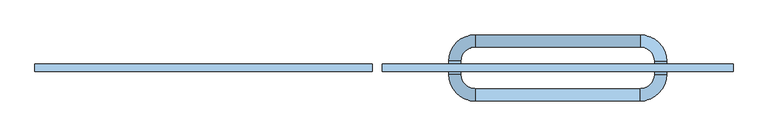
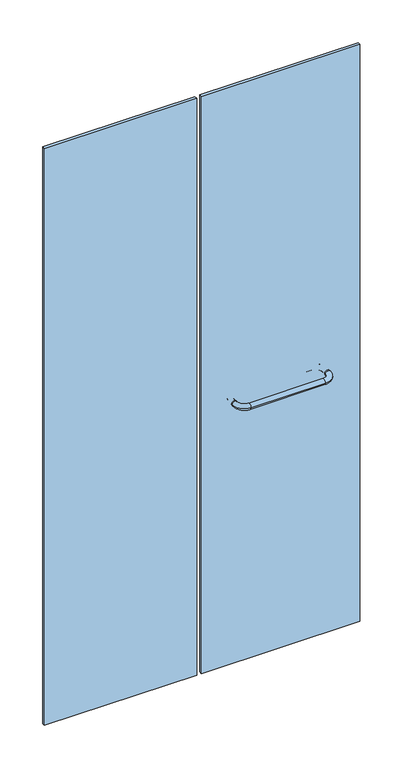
"""IFC4 building model written with IfcOpenShell, lengths in millimetres: window geometry, Baño 1 Puerta lateral - toallero simple : CA07a-cancel baño-1.05."""

from ifc_helpers import new_model, si_unit, point, frame, origin, origin_with_axes, place, context, project, spatial, polyline, circle_curve, ellipse_curve, trimmed, outline, extrude, source, transform, mapped, element, save
from ifc_brep_helpers import cylinder_surface, revolved_surface, advanced_brep


def window_9818a119(model_context):
    return source(origin(), model_context, "Body", "SolidModel", [
        extrude(outline(polyline([(-10.0, 5.5), (510.0, 5.5), (510.0, -5.5), (-10.0, -5.5), (-10.0, 5.5)])), origin_with_axes(), (0.0, 0.0, 1.0), 2000.0),
        extrude(outline(polyline([(-525.0, 5.5), (-25.0, 5.5), (-25.0, -5.5), (-525.0, -5.5), (-525.0, 5.5)])), origin_with_axes(), (0.0, 0.0, 1.0), 2000.0),
        advanced_brep(
        [(88.5, -10.0, 900.0), (106.5, -10.0, 900.0), (127.5, -31.0, 900.0), (127.5, -49.0, 900.0), (88.5, 10.0, 900.0), (106.5, 10.0, 900.0), (127.5, 49.0, 900.0), (127.5, 31.0, 900.0), (372.5, 49.0, 900.0), (372.5, 31.0, 900.0), (411.5, 10.0, 900.0), (393.5, 10.0, 900.0), (411.5, -10.0, 900.0), (393.5, -10.0, 900.0), (372.5, -49.0, 900.0), (372.5, -31.0, 900.0)],
        [
            (0, 1, circle_curve(frame((97.5, -10.0, 900.0), z_axis=(0.0, -1.0, 0.0), x_axis=(1.0, 0.0, 0.0)), 9.0)),
            (1, 2, circle_curve(frame((127.5, -10.0, 900.0), z_axis=(0.0, 0.0, 1.0), x_axis=(0.0, -1.0, 0.0)), 21.0)),
            (2, 3, circle_curve(frame((127.5, -40.0, 900.0), z_axis=(-1.0, 0.0, 0.0), x_axis=(0.0, 1.0, 0.0)), 9.0)),
            (3, 0, circle_curve(frame((127.5, -10.0, 900.0), z_axis=(0.0, 0.0, -1.0), x_axis=(0.0, -1.0, 0.0)), 39.0)),
            (1, 0, circle_curve(frame((97.5, -10.0, 900.0), z_axis=(0.0, -1.0, 0.0), x_axis=(1.0, 0.0, 0.0)), 9.0)),
            (3, 2, circle_curve(frame((127.5, -40.0, 900.0), z_axis=(-1.0, 0.0, 0.0), x_axis=(0.0, 1.0, 0.0)), 9.0)),
            (0, 4),
            (4, 5, circle_curve(frame((97.5, 10.0, 900.0), z_axis=(0.0, -1.0, 0.0), x_axis=(1.0, 0.0, 0.0)), 9.0)),
            (5, 1),
            (5, 4, circle_curve(frame((97.5, 10.0, 900.0), z_axis=(0.0, -1.0, 0.0), x_axis=(1.0, 0.0, 0.0)), 9.0)),
            (6, 7, circle_curve(frame((127.5, 40.0, 900.0), z_axis=(-1.0, 0.0, 0.0), x_axis=(0.0, -1.0, 0.0)), 9.0)),
            (7, 5, circle_curve(frame((127.5, 10.0, 900.0), z_axis=(0.0, 0.0, 1.0), x_axis=(-1.0, 0.0, 0.0)), 21.0)),
            (4, 6, circle_curve(frame((127.5, 10.0, 900.0), z_axis=(0.0, 0.0, -1.0), x_axis=(-1.0, 0.0, 0.0)), 39.0)),
            (7, 6, circle_curve(frame((127.5, 40.0, 900.0), z_axis=(-1.0, 0.0, 0.0), x_axis=(0.0, -1.0, 0.0)), 9.0)),
            (6, 8),
            (8, 9, circle_curve(frame((372.5, 40.0, 900.0), z_axis=(-1.0, 0.0, 0.0), x_axis=(0.0, -1.0, 0.0)), 9.0)),
            (9, 7),
            (9, 8, circle_curve(frame((372.5, 40.0, 900.0), z_axis=(-1.0, 0.0, 0.0), x_axis=(0.0, -1.0, 0.0)), 9.0)),
            (10, 11, circle_curve(frame((402.5, 10.0, 900.0), z_axis=(0.0, 1.0, 0.0), x_axis=(-1.0, 0.0, 0.0)), 9.0)),
            (11, 9, circle_curve(frame((372.5, 10.0, 900.0), z_axis=(0.0, 0.0, 1.0), x_axis=(0.0, 1.0, 0.0)), 21.0)),
            (8, 10, circle_curve(frame((372.5, 10.0, 900.0), z_axis=(0.0, 0.0, -1.0), x_axis=(0.0, 1.0, 0.0)), 39.0)),
            (11, 10, circle_curve(frame((402.5, 10.0, 900.0), z_axis=(0.0, 1.0, 0.0), x_axis=(-1.0, 0.0, 0.0)), 9.0)),
            (10, 12),
            (12, 13, circle_curve(frame((402.5, -10.0, 900.0), z_axis=(0.0, 1.0, 0.0), x_axis=(-1.0, 0.0, 0.0)), 9.0)),
            (13, 11),
            (13, 12, circle_curve(frame((402.5, -10.0, 900.0), z_axis=(0.0, 1.0, 0.0), x_axis=(-1.0, 0.0, 0.0)), 9.0)),
            (14, 15, circle_curve(frame((372.5, -40.0, 900.0), z_axis=(1.0, 0.0, 0.0), x_axis=(0.0, 1.0, 0.0)), 9.0)),
            (15, 13, circle_curve(frame((372.5, -10.0, 900.0), z_axis=(0.0, 0.0, 1.0), x_axis=(1.0, 0.0, 0.0)), 21.0)),
            (12, 14, circle_curve(frame((372.5, -10.0, 900.0), z_axis=(0.0, 0.0, -1.0), x_axis=(1.0, 0.0, 0.0)), 39.0)),
            (15, 14, circle_curve(frame((372.5, -40.0, 900.0), z_axis=(1.0, 0.0, 0.0), x_axis=(0.0, 1.0, 0.0)), 9.0)),
            (14, 3),
            (2, 15),
        ],
        [
            revolved_surface(trimmed(ellipse_curve(frame((127.5, -40.0, 900.0), z_axis=(-1.0, 0.0, 0.0), x_axis=(0.0, 1.0, 0.0)), 9.0, 9.0), [point((127.5, -31.0, 900.0))], [point((127.5, -49.0, 900.0))], True, "CARTESIAN"), (127.5, -10.0, 0.0), (0.0, 0.0, 1.0)),
            revolved_surface(trimmed(ellipse_curve(frame((127.5, -40.0, 900.0), z_axis=(-1.0, 0.0, 0.0), x_axis=(0.0, 1.0, 0.0)), 9.0, 9.0), [point((127.5, -49.0, 900.0))], [point((127.5, -31.0, 900.0))], True, "CARTESIAN"), (127.5, -10.0, 0.0), (0.0, 0.0, 1.0)),
            cylinder_surface(frame((97.5, -10.0, 900.0), z_axis=(0.0, -1.0, 0.0), x_axis=(1.0, 0.0, 0.0)), 9.0),
            revolved_surface(trimmed(ellipse_curve(frame((97.5, 10.0, 900.0), z_axis=(0.0, 1.0, 0.0), x_axis=(1.0, 0.0, 0.0)), 9.0, 9.0), [point((106.5, 10.0, 900.0))], [point((88.5, 10.0, 900.0))], True, "CARTESIAN"), (127.5, 10.0, 0.0), (0.0, 0.0, 1.0)),
            revolved_surface(trimmed(ellipse_curve(frame((97.5, 10.0, 900.0), z_axis=(0.0, 1.0, 0.0), x_axis=(1.0, 0.0, 0.0)), 9.0, 9.0), [point((88.5, 10.0, 900.0))], [point((106.5, 10.0, 900.0))], True, "CARTESIAN"), (127.5, 10.0, 0.0), (0.0, 0.0, 1.0)),
            cylinder_surface(frame((127.5, 40.0, 900.0), z_axis=(-1.0, 0.0, 0.0), x_axis=(0.0, -1.0, 0.0)), 9.0),
            revolved_surface(trimmed(ellipse_curve(frame((372.5, 40.0, 900.0), z_axis=(1.0, 0.0, 0.0), x_axis=(0.0, -1.0, 0.0)), 9.0, 9.0), [point((372.5, 31.0, 900.0))], [point((372.5, 49.0, 900.0))], True, "CARTESIAN"), (372.5, 10.0, 0.0), (0.0, 0.0, 1.0)),
            revolved_surface(trimmed(ellipse_curve(frame((372.5, 40.0, 900.0), z_axis=(1.0, 0.0, 0.0), x_axis=(0.0, -1.0, 0.0)), 9.0, 9.0), [point((372.5, 49.0, 900.0))], [point((372.5, 31.0, 900.0))], True, "CARTESIAN"), (372.5, 10.0, 0.0), (0.0, 0.0, 1.0)),
            cylinder_surface(frame((402.5, 10.0, 900.0), z_axis=(0.0, 1.0, 0.0), x_axis=(-1.0, 0.0, 0.0)), 9.0),
            revolved_surface(trimmed(ellipse_curve(frame((402.5, -10.0, 900.0), z_axis=(0.0, -1.0, 0.0), x_axis=(-1.0, 0.0, 0.0)), 9.0, 9.0), [point((393.5, -10.0, 900.0))], [point((411.5, -10.0, 900.0))], True, "CARTESIAN"), (372.5, -10.0, 0.0), (0.0, 0.0, 1.0)),
            revolved_surface(trimmed(ellipse_curve(frame((402.5, -10.0, 900.0), z_axis=(0.0, -1.0, 0.0), x_axis=(-1.0, 0.0, 0.0)), 9.0, 9.0), [point((411.5, -10.0, 900.0))], [point((393.5, -10.0, 900.0))], True, "CARTESIAN"), (372.5, -10.0, 0.0), (0.0, 0.0, 1.0)),
            cylinder_surface(frame((372.5, -40.0, 900.0), z_axis=(1.0, 0.0, 0.0), x_axis=(0.0, 1.0, 0.0)), 9.0),
        ],
        [
            (0, [[1, 2, 3, 4]]),
            (1, [[5, -4, 6, -2]]),
            (2, [[7, 8, 9, -1]]),
            (2, [[-9, 10, -7, -5]]),
            (3, [[11, 12, -8, 13]]),
            (4, [[14, -13, -10, -12]]),
            (5, [[15, 16, 17, -11]]),
            (5, [[-17, 18, -15, -14]]),
            (6, [[19, 20, -16, 21]]),
            (7, [[22, -21, -18, -20]]),
            (8, [[23, 24, 25, -19]]),
            (8, [[-25, 26, -23, -22]]),
            (9, [[27, 28, -24, 29]]),
            (10, [[30, -29, -26, -28]]),
            (11, [[31, -3, 32, -27]]),
            (11, [[-32, -6, -31, -30]]),
        ],
    ),
    ])


if __name__ == "__main__":
    model = new_model("IFC4")
    model_context = context("Model", 3, world=origin())
    ifc_project = project(units=[si_unit("LENGTHUNIT", "METRE", prefix="MILLI")], contexts=[model_context])
    site = spatial("IfcSite", under=ifc_project)
    building = spatial("IfcBuilding", under=site)
    placement = place(None, origin())
    window_shape = window_9818a119(model_context)
    element("IfcWindow", 1, ObjectType="Baño 1 Puerta lateral - toallero simple : CA07a-cancel baño-1.05", at=placement, inside=building, context=model_context, shape_type="MappedRepresentation", body=[
        mapped(window_shape, transform((0.0, 0.0, 0.0), x_axis=(1.0, 0.0, 0.0), y_axis=(0.0, 1.0, 0.0), z_axis=(0.0, 0.0, 1.0))),
    ])
    save(model, "model.ifc")
